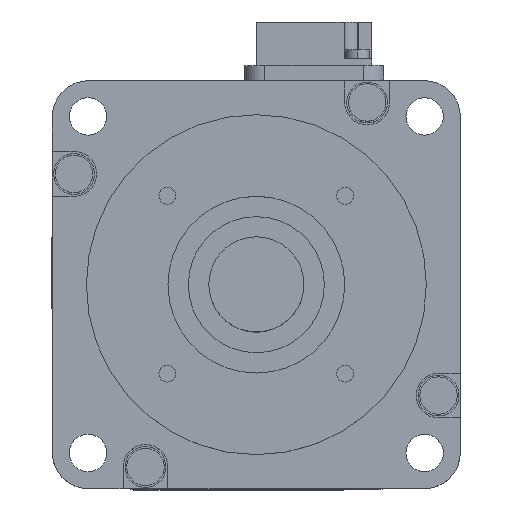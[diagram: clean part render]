
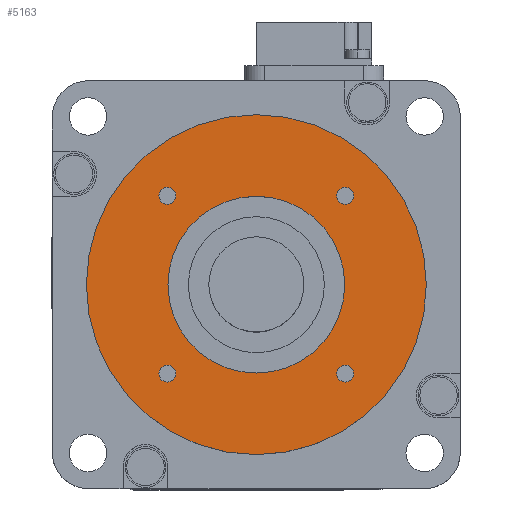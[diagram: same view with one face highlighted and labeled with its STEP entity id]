
A CAD part, top view. The second image highlights one B-rep face of the part: STEP entity #5163.
In plain terms, the highlighted planar face has unit normal (0, 0, 1).
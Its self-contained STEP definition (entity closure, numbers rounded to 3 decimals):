
#3750 = EDGE_LOOP ( 'NONE', ( #5146, #5148 ) ) ;
#3788 = EDGE_CURVE ( 'NONE', #3789, #3861, #11915, .T. ) ;
#3789 = VERTEX_POINT ( 'NONE', #11910 ) ;
#3838 = VERTEX_POINT ( 'NONE', #12005 ) ;
#3840 = EDGE_CURVE ( 'NONE', #3841, #3838, #12004, .T. ) ;
#3841 = VERTEX_POINT ( 'NONE', #11999 ) ;
#3861 = VERTEX_POINT ( 'NONE', #12026 ) ;
#3873 = VERTEX_POINT ( 'NONE', #12064 ) ;
#3875 = EDGE_CURVE ( 'NONE', #3873, #3876, #12063, .T. ) ;
#3876 = VERTEX_POINT ( 'NONE', #12058 ) ;
#3880 = EDGE_CURVE ( 'NONE', #3883, #3881, #12117, .T. ) ;
#3881 = VERTEX_POINT ( 'NONE', #12112 ) ;
#3883 = VERTEX_POINT ( 'NONE', #12111 ) ;
#5033 = ORIENTED_EDGE ( 'NONE', *, *, #3880, .F. ) ;
#5090 = ORIENTED_EDGE ( 'NONE', *, *, #5091, .F. ) ;
#5091 = EDGE_CURVE ( 'NONE', #5686, #5697, #14282, .T. ) ;
#5092 = ORIENTED_EDGE ( 'NONE', *, *, #5685, .F. ) ;
#5093 = EDGE_LOOP ( 'NONE', ( #5094, #5033 ) ) ;
#5094 = ORIENTED_EDGE ( 'NONE', *, *, #5095, .F. ) ;
#5095 = EDGE_CURVE ( 'NONE', #3881, #3883, #14277, .T. ) ;
#5133 = ORIENTED_EDGE ( 'NONE', *, *, #3840, .F. ) ;
#5134 = ORIENTED_EDGE ( 'NONE', *, *, #5135, .F. ) ;
#5135 = EDGE_CURVE ( 'NONE', #3838, #3841, #14341, .T. ) ;
#5146 = ORIENTED_EDGE ( 'NONE', *, *, #5147, .F. ) ;
#5147 = EDGE_CURVE ( 'NONE', #3876, #3873, #14323, .T. ) ;
#5148 = ORIENTED_EDGE ( 'NONE', *, *, #3875, .F. ) ;
#5149 = EDGE_LOOP ( 'NONE', ( #5150, #5152 ) ) ;
#5150 = ORIENTED_EDGE ( 'NONE', *, *, #5151, .F. ) ;
#5151 = EDGE_CURVE ( 'NONE', #5514, #5517, #14318, .T. ) ;
#5152 = ORIENTED_EDGE ( 'NONE', *, *, #5513, .F. ) ;
#5153 = EDGE_LOOP ( 'NONE', ( #5154, #5156 ) ) ;
#5154 = ORIENTED_EDGE ( 'NONE', *, *, #5155, .T. ) ;
#5155 = EDGE_CURVE ( 'NONE', #3861, #3789, #14383, .T. ) ;
#5156 = ORIENTED_EDGE ( 'NONE', *, *, #3788, .T. ) ;
#5157 = EDGE_LOOP ( 'NONE', ( #5133, #5134 ) ) ;
#5163 = ADVANCED_FACE ( 'NONE', ( #14373, #14372, #14371, #14370, #14369, #14368 ), #14367, .T. ) ;
#5164 = EDGE_LOOP ( 'NONE', ( #5090, #5092 ) ) ;
#5513 = EDGE_CURVE ( 'NONE', #5517, #5514, #14889, .T. ) ;
#5514 = VERTEX_POINT ( 'NONE', #14884 ) ;
#5517 = VERTEX_POINT ( 'NONE', #14879 ) ;
#5685 = EDGE_CURVE ( 'NONE', #5697, #5686, #15204, .T. ) ;
#5686 = VERTEX_POINT ( 'NONE', #15199 ) ;
#5697 = VERTEX_POINT ( 'NONE', #15239 ) ;
#11910 = CARTESIAN_POINT ( 'NONE',  ( 13., 0., 3. ) ) ;
#11911 = DIRECTION ( 'NONE',  ( -1., 0., 0. ) ) ;
#11912 = DIRECTION ( 'NONE',  ( 0., 0., -1. ) ) ;
#11913 = CARTESIAN_POINT ( 'NONE',  ( 0., 0., 3. ) ) ;
#11914 = AXIS2_PLACEMENT_3D ( 'NONE', #11913, #11912, #11911 ) ;
#11915 = CIRCLE ( 'NONE', #11914, 13. ) ;
#11999 = CARTESIAN_POINT ( 'NONE',  ( -25., 0., 3. ) ) ;
#12000 = DIRECTION ( 'NONE',  ( -1., 0., 0. ) ) ;
#12001 = DIRECTION ( 'NONE',  ( 0., 0., -1. ) ) ;
#12002 = CARTESIAN_POINT ( 'NONE',  ( 0., 0., 3. ) ) ;
#12003 = AXIS2_PLACEMENT_3D ( 'NONE', #12002, #12001, #12000 ) ;
#12004 = CIRCLE ( 'NONE', #12003, 25. ) ;
#12005 = CARTESIAN_POINT ( 'NONE',  ( 25., 0., 3. ) ) ;
#12026 = CARTESIAN_POINT ( 'NONE',  ( -13., 0., 3. ) ) ;
#12058 = CARTESIAN_POINT ( 'NONE',  ( -11.831, 13.081, 3. ) ) ;
#12059 = DIRECTION ( 'NONE',  ( 0., 1., 0. ) ) ;
#12060 = DIRECTION ( 'NONE',  ( 0., 0., 1. ) ) ;
#12061 = CARTESIAN_POINT ( 'NONE',  ( -13.081, 13.081, 3. ) ) ;
#12062 = AXIS2_PLACEMENT_3D ( 'NONE', #12061, #12060, #12059 ) ;
#12063 = CIRCLE ( 'NONE', #12062, 1.25 ) ;
#12064 = CARTESIAN_POINT ( 'NONE',  ( -14.331, 13.081, 3. ) ) ;
#12111 = CARTESIAN_POINT ( 'NONE',  ( -14.331, -13.081, 3. ) ) ;
#12112 = CARTESIAN_POINT ( 'NONE',  ( -11.831, -13.081, 3. ) ) ;
#12113 = DIRECTION ( 'NONE',  ( -1., 0., 0. ) ) ;
#12114 = DIRECTION ( 'NONE',  ( 0., 0., 1. ) ) ;
#12115 = CARTESIAN_POINT ( 'NONE',  ( -13.081, -13.081, 3. ) ) ;
#12116 = AXIS2_PLACEMENT_3D ( 'NONE', #12115, #12114, #12113 ) ;
#12117 = CIRCLE ( 'NONE', #12116, 1.25 ) ;
#14273 = DIRECTION ( 'NONE',  ( -1., 0., 0. ) ) ;
#14274 = DIRECTION ( 'NONE',  ( 0., 0., 1. ) ) ;
#14275 = CARTESIAN_POINT ( 'NONE',  ( -13.081, -13.081, 3. ) ) ;
#14276 = AXIS2_PLACEMENT_3D ( 'NONE', #14275, #14274, #14273 ) ;
#14277 = CIRCLE ( 'NONE', #14276, 1.25 ) ;
#14278 = DIRECTION ( 'NONE',  ( 0., -1., 0. ) ) ;
#14279 = DIRECTION ( 'NONE',  ( 0., 0., 1. ) ) ;
#14280 = CARTESIAN_POINT ( 'NONE',  ( 13.081, -13.081, 3. ) ) ;
#14281 = AXIS2_PLACEMENT_3D ( 'NONE', #14280, #14279, #14278 ) ;
#14282 = CIRCLE ( 'NONE', #14281, 1.25 ) ;
#14314 = DIRECTION ( 'NONE',  ( 1., 0., 0. ) ) ;
#14315 = DIRECTION ( 'NONE',  ( 0., 0., 1. ) ) ;
#14316 = CARTESIAN_POINT ( 'NONE',  ( 13.081, 13.081, 3. ) ) ;
#14317 = AXIS2_PLACEMENT_3D ( 'NONE', #14316, #14315, #14314 ) ;
#14318 = CIRCLE ( 'NONE', #14317, 1.25 ) ;
#14319 = DIRECTION ( 'NONE',  ( 0., 1., 0. ) ) ;
#14320 = DIRECTION ( 'NONE',  ( 0., 0., 1. ) ) ;
#14321 = CARTESIAN_POINT ( 'NONE',  ( -13.081, 13.081, 3. ) ) ;
#14322 = AXIS2_PLACEMENT_3D ( 'NONE', #14321, #14320, #14319 ) ;
#14323 = CIRCLE ( 'NONE', #14322, 1.25 ) ;
#14337 = DIRECTION ( 'NONE',  ( -1., 0., 0. ) ) ;
#14338 = DIRECTION ( 'NONE',  ( 0., 0., -1. ) ) ;
#14339 = CARTESIAN_POINT ( 'NONE',  ( 0., 0., 3. ) ) ;
#14340 = AXIS2_PLACEMENT_3D ( 'NONE', #14339, #14338, #14337 ) ;
#14341 = CIRCLE ( 'NONE', #14340, 25. ) ;
#14363 = DIRECTION ( 'NONE',  ( 1., 0., 0. ) ) ;
#14364 = DIRECTION ( 'NONE',  ( 0., 0., 1. ) ) ;
#14365 = CARTESIAN_POINT ( 'NONE',  ( 0., 25., 3. ) ) ;
#14366 = AXIS2_PLACEMENT_3D ( 'NONE', #14365, #14364, #14363 ) ;
#14367 = PLANE ( 'NONE',  #14366 ) ;
#14368 = FACE_OUTER_BOUND ( 'NONE', #5157, .T. ) ;
#14369 = FACE_BOUND ( 'NONE', #5153, .T. ) ;
#14370 = FACE_BOUND ( 'NONE', #5149, .T. ) ;
#14371 = FACE_BOUND ( 'NONE', #3750, .T. ) ;
#14372 = FACE_BOUND ( 'NONE', #5093, .T. ) ;
#14373 = FACE_BOUND ( 'NONE', #5164, .T. ) ;
#14379 = DIRECTION ( 'NONE',  ( -1., 0., 0. ) ) ;
#14380 = DIRECTION ( 'NONE',  ( 0., 0., -1. ) ) ;
#14381 = CARTESIAN_POINT ( 'NONE',  ( 0., 0., 3. ) ) ;
#14382 = AXIS2_PLACEMENT_3D ( 'NONE', #14381, #14380, #14379 ) ;
#14383 = CIRCLE ( 'NONE', #14382, 13. ) ;
#14879 = CARTESIAN_POINT ( 'NONE',  ( 11.831, 13.081, 3. ) ) ;
#14884 = CARTESIAN_POINT ( 'NONE',  ( 14.331, 13.081, 3. ) ) ;
#14885 = DIRECTION ( 'NONE',  ( 1., 0., 0. ) ) ;
#14886 = DIRECTION ( 'NONE',  ( 0., 0., 1. ) ) ;
#14887 = CARTESIAN_POINT ( 'NONE',  ( 13.081, 13.081, 3. ) ) ;
#14888 = AXIS2_PLACEMENT_3D ( 'NONE', #14887, #14886, #14885 ) ;
#14889 = CIRCLE ( 'NONE', #14888, 1.25 ) ;
#15199 = CARTESIAN_POINT ( 'NONE',  ( 14.331, -13.081, 3. ) ) ;
#15200 = DIRECTION ( 'NONE',  ( 0., -1., 0. ) ) ;
#15201 = DIRECTION ( 'NONE',  ( 0., 0., 1. ) ) ;
#15202 = CARTESIAN_POINT ( 'NONE',  ( 13.081, -13.081, 3. ) ) ;
#15203 = AXIS2_PLACEMENT_3D ( 'NONE', #15202, #15201, #15200 ) ;
#15204 = CIRCLE ( 'NONE', #15203, 1.25 ) ;
#15239 = CARTESIAN_POINT ( 'NONE',  ( 11.831, -13.081, 3. ) ) ;
